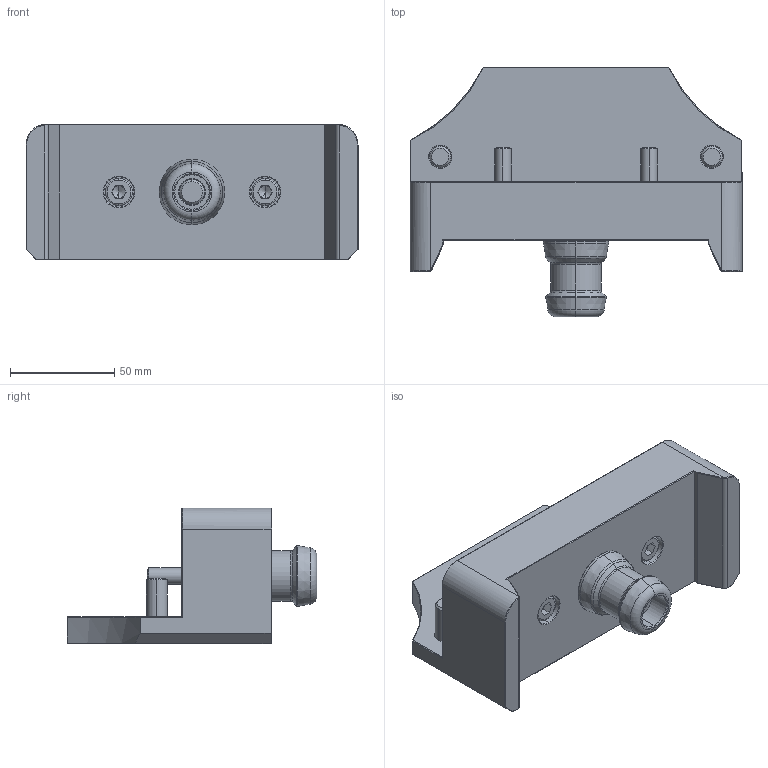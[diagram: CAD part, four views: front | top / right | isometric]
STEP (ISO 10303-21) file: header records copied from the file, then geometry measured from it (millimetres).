
FILE_DESCRIPTION (( 'STEP AP214' ), '1' );
FILE_NAME ('CTY-20.STEP', '2020-08-18T01:59:17', ( 'Dell' ), ( 'Dell' ), 'SwSTEP 2.0', 'SolidWorks 2018', '' );
FILE_SCHEMA (( 'AUTOMOTIVE_DESIGN' ));
Length unit declared in the file: millimetre
Products named in the file (1): CTY-20
Bounding box: 159 x 119.69 x 65 mm (x, y, z)
Volume: 424136.7 mm3; surface area: 70361.8 mm2
Topology: 7 solids, 7 shells, 453 faces, 1066 edges, 647 vertices
Faces by surface type: plane 204, cone 86, bspline 65, cylinder 64, torus 34
Entity records: 21115 total; most frequent: CARTESIAN_POINT 5962, ORIENTED_EDGE 2112, DIRECTION 1988, EDGE_CURVE 1056, AXIS2_PLACEMENT_3D 687, VERTEX_POINT 647, VECTOR 614, LINE 614
